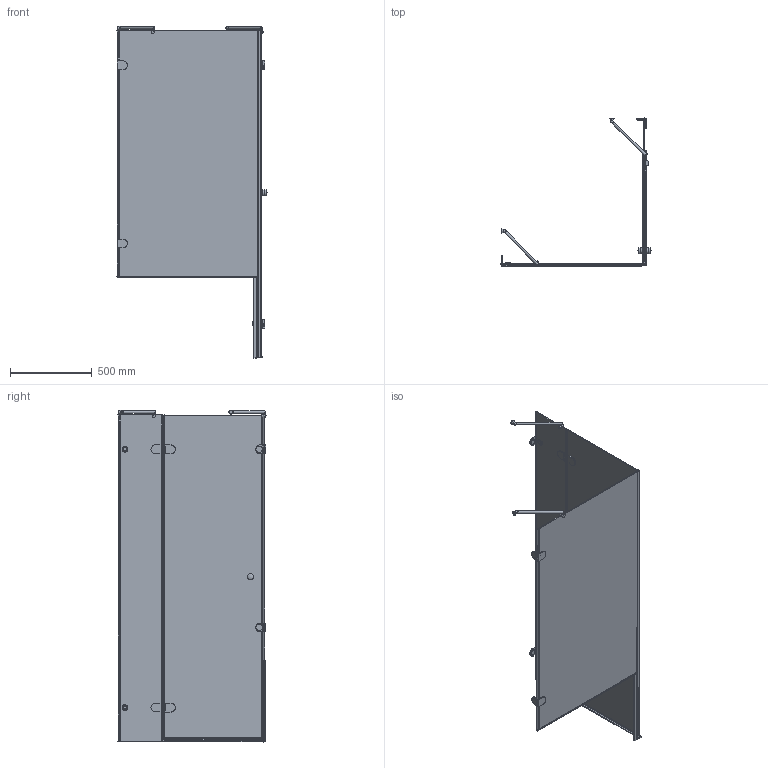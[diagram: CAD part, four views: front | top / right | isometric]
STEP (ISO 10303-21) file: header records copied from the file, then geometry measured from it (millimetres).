
FILE_DESCRIPTION((''),'2;1');
FILE_NAME('E:\Работа\Сергей\Душевые кабинки\! Работа\LUX SQUARE GK-003V\LUX SQUARE GK-003V правая модель\LUX SQUARE GK-003V ПРАВАЯ-3D.stp','2017-05-13T13:50:36',('User'),(''),'Autodesk Inventor 2013','Autodesk Inventor 2013','');
FILE_SCHEMA(('CONFIG_CONTROL_DESIGN'));
Length unit declared in the file: millimetre
Products named in the file (1): LUX SQUARE GK-003V ПРАВАЯ-3D_Substitute_1
Bounding box: 917.98 x 905.98 x 2031.5 mm (x, y, z)
Volume: 19752438.7 mm3; surface area: 6785113.6 mm2
Topology: 5 solids, 5 shells, 733 faces, 1935 edges, 1241 vertices
Faces by surface type: plane 486, cylinder 197, torus 21, bspline 14, sphere 11, cone 4
Full cylindrical faces by diameter (mm): 12 x2, 15 x2, 20 x4, 26 x2, 30 x4, 35 x4, 38 x4, 40 x4
Entity records: 23805 total; most frequent: CARTESIAN_POINT 5066, ORIENTED_EDGE 3700, DIRECTION 3687, EDGE_CURVE 1850, VECTOR 1335, LINE 1335, VERTEX_POINT 1215, AXIS2_PLACEMENT_3D 1176
